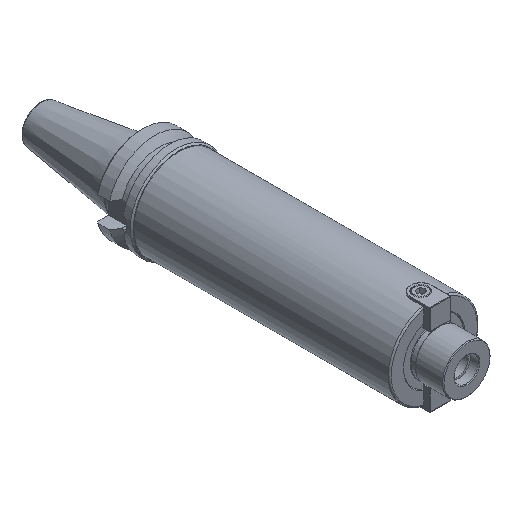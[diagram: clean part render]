
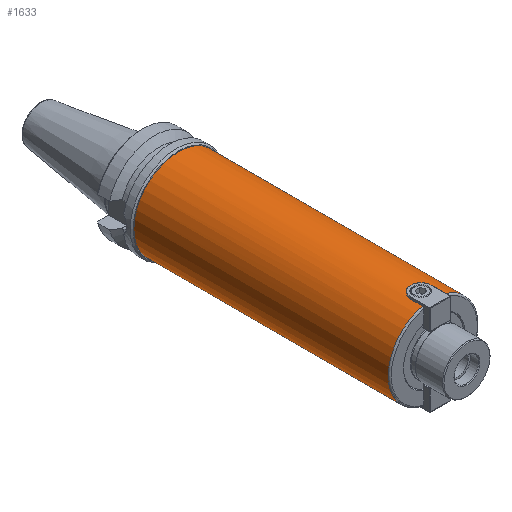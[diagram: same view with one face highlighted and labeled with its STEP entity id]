
A CAD part, isometric view. The second image highlights one B-rep face of the part: STEP entity #1633.
In plain terms, the highlighted cylindrical face has radius 30 mm (diameter 60 mm), a full revolution.
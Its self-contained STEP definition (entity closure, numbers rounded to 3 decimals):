
#157=FACE_OUTER_BOUND('',#263,.T.);
#263=EDGE_LOOP('',(#1134,#1135,#1136,#1137,#1138,#1139,#1140,#1141,#1142,
#1143,#1144,#1145,#1146,#1147));
#380=CIRCLE('',#1835,30.);
#381=CIRCLE('',#1836,30.);
#382=CIRCLE('',#1837,30.);
#383=CIRCLE('',#1838,30.);
#479=LINE('',#2589,#576);
#484=LINE('',#2619,#581);
#489=LINE('',#2646,#586);
#490=LINE('',#2651,#587);
#491=LINE('',#2675,#588);
#576=VECTOR('',#2047,10.);
#581=VECTOR('',#2062,10.);
#586=VECTOR('',#2073,30.);
#587=VECTOR('',#2078,10.);
#588=VECTOR('',#2079,10.);
#671=B_SPLINE_CURVE_WITH_KNOTS('',3,(#2561,#2562,#2563,#2564,#2565,#2566,
#2567,#2568,#2569,#2570),.UNSPECIFIED.,.F.,.F.,(4,2,2,2,4),(0.,0.265,
0.529,0.794,1.059),.UNSPECIFIED.);
#672=B_SPLINE_CURVE_WITH_KNOTS('',3,(#2577,#2578,#2579,#2580,#2581,#2582,
#2583,#2584,#2585,#2586),.UNSPECIFIED.,.F.,.F.,(4,2,2,2,4),(1.059,
1.324,1.588,1.853,2.118),
 .UNSPECIFIED.);
#675=B_SPLINE_CURVE_WITH_KNOTS('',3,(#2653,#2654,#2655,#2656,#2657,#2658,
#2659,#2660,#2661,#2662),.UNSPECIFIED.,.F.,.F.,(4,2,2,2,4),(-2.118,
-1.853,-1.588,-1.324,-1.059),
 .UNSPECIFIED.);
#676=B_SPLINE_CURVE_WITH_KNOTS('',3,(#2664,#2665,#2666,#2667,#2668,#2669,
#2670,#2671,#2672,#2673),.UNSPECIFIED.,.F.,.F.,(4,2,2,2,4),(-1.059,
-0.794,-0.529,-0.265,0.),
 .UNSPECIFIED.);
#700=VERTEX_POINT('',#2559);
#701=VERTEX_POINT('',#2560);
#704=VERTEX_POINT('',#2575);
#705=VERTEX_POINT('',#2588);
#712=VERTEX_POINT('',#2618);
#717=VERTEX_POINT('',#2643);
#718=VERTEX_POINT('',#2645);
#719=VERTEX_POINT('',#2648);
#720=VERTEX_POINT('',#2650);
#721=VERTEX_POINT('',#2652);
#722=VERTEX_POINT('',#2663);
#723=VERTEX_POINT('',#2674);
#860=EDGE_CURVE('',#700,#701,#671,.T.);
#864=EDGE_CURVE('',#701,#704,#672,.T.);
#865=EDGE_CURVE('',#704,#705,#479,.T.);
#874=EDGE_CURVE('',#712,#700,#484,.T.);
#881=EDGE_CURVE('',#717,#705,#380,.T.);
#882=EDGE_CURVE('',#717,#718,#489,.T.);
#883=EDGE_CURVE('',#718,#718,#381,.T.);
#884=EDGE_CURVE('',#719,#717,#382,.T.);
#885=EDGE_CURVE('',#719,#720,#490,.T.);
#886=EDGE_CURVE('',#720,#721,#675,.T.);
#887=EDGE_CURVE('',#721,#722,#676,.T.);
#888=EDGE_CURVE('',#722,#723,#491,.T.);
#889=EDGE_CURVE('',#712,#723,#383,.T.);
#1134=ORIENTED_EDGE('',*,*,#874,.T.);
#1135=ORIENTED_EDGE('',*,*,#860,.T.);
#1136=ORIENTED_EDGE('',*,*,#864,.T.);
#1137=ORIENTED_EDGE('',*,*,#865,.T.);
#1138=ORIENTED_EDGE('',*,*,#881,.F.);
#1139=ORIENTED_EDGE('',*,*,#882,.T.);
#1140=ORIENTED_EDGE('',*,*,#883,.T.);
#1141=ORIENTED_EDGE('',*,*,#882,.F.);
#1142=ORIENTED_EDGE('',*,*,#884,.F.);
#1143=ORIENTED_EDGE('',*,*,#885,.T.);
#1144=ORIENTED_EDGE('',*,*,#886,.T.);
#1145=ORIENTED_EDGE('',*,*,#887,.T.);
#1146=ORIENTED_EDGE('',*,*,#888,.T.);
#1147=ORIENTED_EDGE('',*,*,#889,.F.);
#1597=CYLINDRICAL_SURFACE('',#1834,30.);
#1633=ADVANCED_FACE('',(#157),#1597,.T.);
#1834=AXIS2_PLACEMENT_3D('',#2642,#2069,#2070);
#1835=AXIS2_PLACEMENT_3D('',#2644,#2071,#2072);
#1836=AXIS2_PLACEMENT_3D('',#2647,#2074,#2075);
#1837=AXIS2_PLACEMENT_3D('',#2649,#2076,#2077);
#1838=AXIS2_PLACEMENT_3D('',#2676,#2080,#2081);
#2047=DIRECTION('',(0.,-1.,0.));
#2062=DIRECTION('',(0.,1.,0.));
#2069=DIRECTION('center_axis',(0.,-1.,0.));
#2070=DIRECTION('ref_axis',(1.,0.,0.));
#2071=DIRECTION('center_axis',(0.,-1.,0.));
#2072=DIRECTION('ref_axis',(-1.,0.,0.));
#2073=DIRECTION('',(0.,1.,0.));
#2074=DIRECTION('center_axis',(0.,-1.,0.));
#2075=DIRECTION('ref_axis',(1.,0.,0.));
#2076=DIRECTION('center_axis',(0.,-1.,0.));
#2077=DIRECTION('ref_axis',(-1.,0.,0.));
#2078=DIRECTION('',(0.,1.,0.));
#2079=DIRECTION('',(0.,-1.,0.));
#2080=DIRECTION('center_axis',(0.,-1.,0.));
#2081=DIRECTION('ref_axis',(-1.,0.,0.));
#2559=CARTESIAN_POINT('',(7.,-93.2,-29.172));
#2560=CARTESIAN_POINT('',(0.,-86.2,-30.));
#2561=CARTESIAN_POINT('Ctrl Pts',(7.,-93.2,-29.172));
#2562=CARTESIAN_POINT('Ctrl Pts',(7.,-92.318,-29.172));
#2563=CARTESIAN_POINT('Ctrl Pts',(6.823,-91.379,-29.216));
#2564=CARTESIAN_POINT('Ctrl Pts',(6.108,-89.655,-29.374));
#2565=CARTESIAN_POINT('Ctrl Pts',(5.569,-88.87,-29.485));
#2566=CARTESIAN_POINT('Ctrl Pts',(4.33,-87.631,-29.693));
#2567=CARTESIAN_POINT('Ctrl Pts',(3.545,-87.092,-29.802));
#2568=CARTESIAN_POINT('Ctrl Pts',(1.821,-86.377,-29.957));
#2569=CARTESIAN_POINT('Ctrl Pts',(0.882,-86.2,-30.));
#2570=CARTESIAN_POINT('Ctrl Pts',(0.,-86.2,-30.));
#2575=CARTESIAN_POINT('',(-7.,-93.2,-29.172));
#2577=CARTESIAN_POINT('Ctrl Pts',(0.,-86.2,-30.));
#2578=CARTESIAN_POINT('Ctrl Pts',(-0.882,-86.2,-30.));
#2579=CARTESIAN_POINT('Ctrl Pts',(-1.821,-86.377,-29.957));
#2580=CARTESIAN_POINT('Ctrl Pts',(-3.545,-87.092,-29.802));
#2581=CARTESIAN_POINT('Ctrl Pts',(-4.33,-87.631,-29.693));
#2582=CARTESIAN_POINT('Ctrl Pts',(-5.569,-88.87,-29.485));
#2583=CARTESIAN_POINT('Ctrl Pts',(-6.108,-89.655,-29.374));
#2584=CARTESIAN_POINT('Ctrl Pts',(-6.823,-91.379,-29.216));
#2585=CARTESIAN_POINT('Ctrl Pts',(-7.,-92.318,-29.172));
#2586=CARTESIAN_POINT('Ctrl Pts',(-7.,-93.2,-29.172));
#2588=CARTESIAN_POINT('',(-7.,-101.2,-29.172));
#2589=CARTESIAN_POINT('',(-7.,-16.1,-29.172));
#2618=CARTESIAN_POINT('',(7.,-101.2,-29.172));
#2619=CARTESIAN_POINT('',(7.,-16.1,-29.172));
#2642=CARTESIAN_POINT('Origin',(0.,-16.1,0.));
#2643=CARTESIAN_POINT('',(-30.,-101.2,0.));
#2644=CARTESIAN_POINT('Origin',(0.,-101.2,0.));
#2645=CARTESIAN_POINT('',(-30.,70.,0.));
#2646=CARTESIAN_POINT('',(-30.,-16.1,0.));
#2647=CARTESIAN_POINT('Origin',(0.,70.,0.));
#2648=CARTESIAN_POINT('',(-7.,-101.2,29.172));
#2649=CARTESIAN_POINT('Origin',(0.,-101.2,0.));
#2650=CARTESIAN_POINT('',(-7.,-93.2,29.172));
#2651=CARTESIAN_POINT('',(-7.,-16.1,29.172));
#2652=CARTESIAN_POINT('',(0.,-86.2,30.));
#2653=CARTESIAN_POINT('Ctrl Pts',(-7.,-93.2,29.172));
#2654=CARTESIAN_POINT('Ctrl Pts',(-7.,-92.318,29.172));
#2655=CARTESIAN_POINT('Ctrl Pts',(-6.823,-91.379,29.216));
#2656=CARTESIAN_POINT('Ctrl Pts',(-6.108,-89.655,29.374));
#2657=CARTESIAN_POINT('Ctrl Pts',(-5.569,-88.87,29.485));
#2658=CARTESIAN_POINT('Ctrl Pts',(-4.33,-87.631,29.693));
#2659=CARTESIAN_POINT('Ctrl Pts',(-3.545,-87.092,29.802));
#2660=CARTESIAN_POINT('Ctrl Pts',(-1.821,-86.377,29.957));
#2661=CARTESIAN_POINT('Ctrl Pts',(-0.882,-86.2,30.));
#2662=CARTESIAN_POINT('Ctrl Pts',(0.,-86.2,30.));
#2663=CARTESIAN_POINT('',(7.,-93.2,29.172));
#2664=CARTESIAN_POINT('Ctrl Pts',(0.,-86.2,30.));
#2665=CARTESIAN_POINT('Ctrl Pts',(0.882,-86.2,30.));
#2666=CARTESIAN_POINT('Ctrl Pts',(1.821,-86.377,29.957));
#2667=CARTESIAN_POINT('Ctrl Pts',(3.545,-87.092,29.802));
#2668=CARTESIAN_POINT('Ctrl Pts',(4.33,-87.631,29.693));
#2669=CARTESIAN_POINT('Ctrl Pts',(5.569,-88.87,29.485));
#2670=CARTESIAN_POINT('Ctrl Pts',(6.108,-89.655,29.374));
#2671=CARTESIAN_POINT('Ctrl Pts',(6.823,-91.379,29.216));
#2672=CARTESIAN_POINT('Ctrl Pts',(7.,-92.318,29.172));
#2673=CARTESIAN_POINT('Ctrl Pts',(7.,-93.2,29.172));
#2674=CARTESIAN_POINT('',(7.,-101.2,29.172));
#2675=CARTESIAN_POINT('',(7.,-16.1,29.172));
#2676=CARTESIAN_POINT('Origin',(0.,-101.2,0.));
